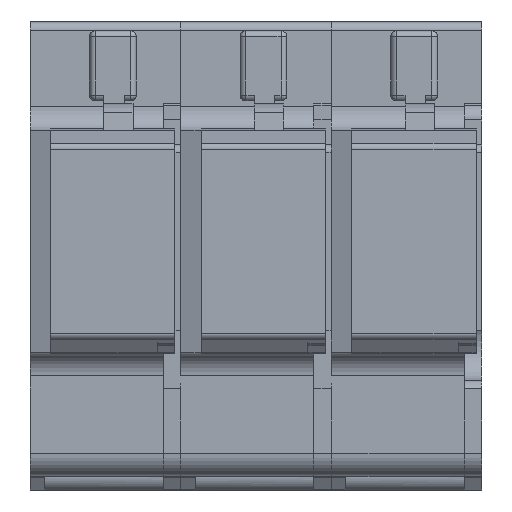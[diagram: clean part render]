
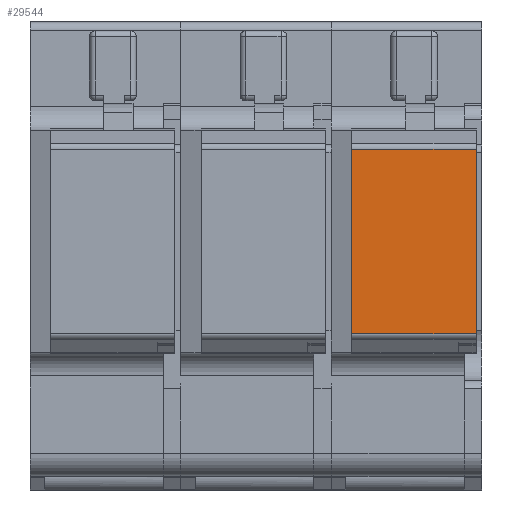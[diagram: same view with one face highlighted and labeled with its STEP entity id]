
A CAD part, front view. The second image highlights one B-rep face of the part: STEP entity #29544.
In plain terms, the highlighted planar face has unit normal (0, -1, 0).
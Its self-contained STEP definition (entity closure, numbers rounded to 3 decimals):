
#1992 = DIRECTION ( 'NONE',  ( 0., 0., 1. ) ) ;
#3828 = VECTOR ( 'NONE', #28116, 1000. ) ;
#4036 = CARTESIAN_POINT ( 'NONE',  ( -1.875, -20.088, -8. ) ) ;
#4855 = EDGE_LOOP ( 'NONE', ( #15113, #5331, #14204, #27000 ) ) ;
#4879 = EDGE_CURVE ( 'NONE', #20579, #14086, #11031, .T. ) ;
#5331 = ORIENTED_EDGE ( 'NONE', *, *, #14427, .F. ) ;
#5793 = DIRECTION ( 'NONE',  ( -1., 0., 0. ) ) ;
#6101 = CARTESIAN_POINT ( 'NONE',  ( 2.575, -20.087, 3.656 ) ) ;
#6891 = DIRECTION ( 'NONE',  ( 0., 0., 1. ) ) ;
#8170 = CARTESIAN_POINT ( 'NONE',  ( -1.875, -20.088, -2.656 ) ) ;
#10114 = CARTESIAN_POINT ( 'NONE',  ( -1.875, -20.088, 3.656 ) ) ;
#10520 = AXIS2_PLACEMENT_3D ( 'NONE', #21172, #29028, #1992 ) ;
#11031 = LINE ( 'NONE', #6101, #20290 ) ;
#14086 = VERTEX_POINT ( 'NONE', #10114 ) ;
#14204 = ORIENTED_EDGE ( 'NONE', *, *, #27783, .F. ) ;
#14427 = EDGE_CURVE ( 'NONE', #20249, #14086, #18883, .T. ) ;
#15113 = ORIENTED_EDGE ( 'NONE', *, *, #4879, .T. ) ;
#15869 = LINE ( 'NONE', #25786, #30692 ) ;
#18186 = CARTESIAN_POINT ( 'NONE',  ( 2.575, -20.087, -2.656 ) ) ;
#18781 = FACE_OUTER_BOUND ( 'NONE', #4855, .T. ) ;
#18883 = LINE ( 'NONE', #4036, #19789 ) ;
#19789 = VECTOR ( 'NONE', #6891, 1000. ) ;
#20249 = VERTEX_POINT ( 'NONE', #8170 ) ;
#20290 = VECTOR ( 'NONE', #5793, 1000. ) ;
#20579 = VERTEX_POINT ( 'NONE', #28272 ) ;
#21172 = CARTESIAN_POINT ( 'NONE',  ( 2.575, -20.087, -2.656 ) ) ;
#25786 = CARTESIAN_POINT ( 'NONE',  ( 2.375, -20.088, -8. ) ) ;
#27000 = ORIENTED_EDGE ( 'NONE', *, *, #28292, .T. ) ;
#27310 = CARTESIAN_POINT ( 'NONE',  ( 2.375, -20.088, -2.656 ) ) ;
#27783 = EDGE_CURVE ( 'NONE', #29205, #20249, #28271, .T. ) ;
#28116 = DIRECTION ( 'NONE',  ( -1., 0., 0. ) ) ;
#28271 = LINE ( 'NONE', #18186, #3828 ) ;
#28272 = CARTESIAN_POINT ( 'NONE',  ( 2.375, -20.088, 3.656 ) ) ;
#28292 = EDGE_CURVE ( 'NONE', #29205, #20579, #15869, .T. ) ;
#28345 = DIRECTION ( 'NONE',  ( 0., 0., 1. ) ) ;
#28551 = PLANE ( 'NONE',  #10520 ) ;
#29028 = DIRECTION ( 'NONE',  ( 0., 1., 0. ) ) ;
#29205 = VERTEX_POINT ( 'NONE', #27310 ) ;
#29544 = ADVANCED_FACE ( 'NONE', ( #18781 ), #28551, .F. ) ;
#30692 = VECTOR ( 'NONE', #28345, 1000. ) ;
